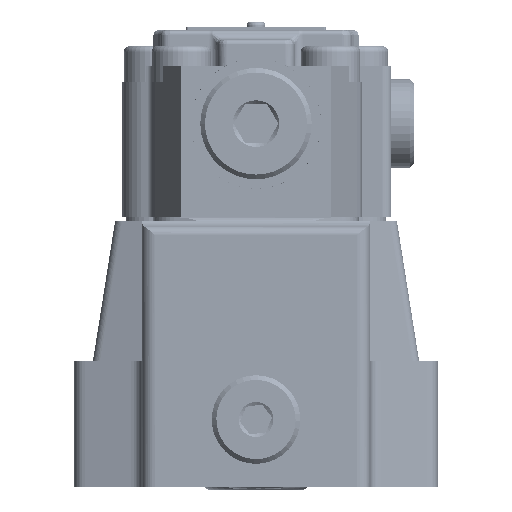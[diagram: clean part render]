
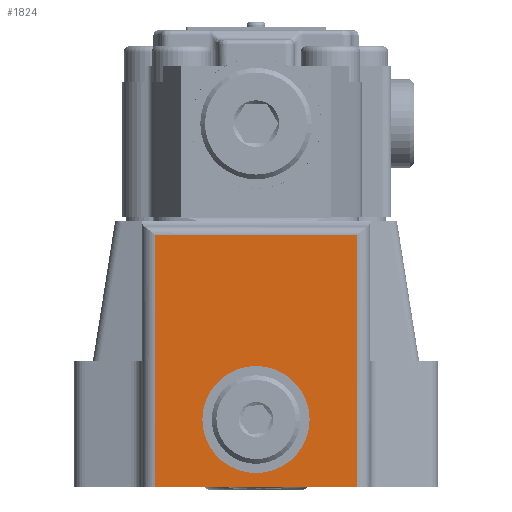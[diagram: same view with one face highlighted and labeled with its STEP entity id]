
A CAD part, left-side view. The second image highlights one B-rep face of the part: STEP entity #1824.
In plain terms, the highlighted planar face has unit normal (-1, 0, 0).
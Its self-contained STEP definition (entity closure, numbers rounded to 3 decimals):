
#1025=PLANE('',#10417);
#1387=FACE_BOUND('',#3114,.T.);
#1388=FACE_BOUND('',#3115,.T.);
#1824=ADVANCED_FACE('',(#1387,#1388),#1025,.F.);
#3114=EDGE_LOOP('',(#5137));
#3115=EDGE_LOOP('',(#5138,#5139,#5140,#5141));
#3831=CIRCLE('',#10416,11.5);
#5137=ORIENTED_EDGE('',*,*,#8227,.T.);
#5138=ORIENTED_EDGE('',*,*,#8181,.T.);
#5139=ORIENTED_EDGE('',*,*,#8112,.T.);
#5140=ORIENTED_EDGE('',*,*,#8187,.T.);
#5141=ORIENTED_EDGE('',*,*,#8228,.T.);
#7160=VERTEX_POINT('',#29062);
#7161=VERTEX_POINT('',#29063);
#7221=VERTEX_POINT('',#29344);
#7226=VERTEX_POINT('',#29400);
#7239=VERTEX_POINT('',#29478);
#8112=EDGE_CURVE('',#7160,#7161,#9208,.T.);
#8181=EDGE_CURVE('',#7221,#7160,#9235,.T.);
#8187=EDGE_CURVE('',#7161,#7226,#9236,.T.);
#8227=EDGE_CURVE('',#7239,#7239,#3831,.T.);
#8228=EDGE_CURVE('',#7226,#7221,#9266,.T.);
#9208=LINE('',#29061,#9728);
#9235=LINE('',#29343,#9755);
#9236=LINE('',#29401,#9756);
#9266=LINE('',#29479,#9786);
#9728=VECTOR('',#11730,1.);
#9755=VECTOR('',#11841,1.);
#9756=VECTOR('',#11846,1.);
#9786=VECTOR('',#11946,1.);
#10416=AXIS2_PLACEMENT_3D('',#29477,#11944,#11945);
#10417=AXIS2_PLACEMENT_3D('',#29480,#11947,#11948);
#11730=DIRECTION('',(0.,-1.,0.));
#11841=DIRECTION('',(0.,0.,-1.));
#11846=DIRECTION('',(0.,0.,1.));
#11944=DIRECTION('',(1.,0.,0.));
#11945=DIRECTION('',(0.,0.,-1.));
#11946=DIRECTION('',(0.,1.,0.));
#11947=DIRECTION('',(1.,0.,0.));
#11948=DIRECTION('',(0.,0.,1.));
#29061=CARTESIAN_POINT('',(540.888,66.994,0.));
#29062=CARTESIAN_POINT('',(540.888,71.902,0.));
#29063=CARTESIAN_POINT('',(540.888,28.413,0.));
#29343=CARTESIAN_POINT('',(540.888,71.902,0.));
#29344=CARTESIAN_POINT('',(540.888,71.902,54.));
#29400=CARTESIAN_POINT('',(540.888,28.413,54.));
#29401=CARTESIAN_POINT('',(540.888,28.413,0.));
#29477=CARTESIAN_POINT('',(540.888,50.157,14.5));
#29478=CARTESIAN_POINT('',(540.888,50.157,3.));
#29479=CARTESIAN_POINT('',(540.888,66.994,54.));
#29480=CARTESIAN_POINT('',(540.888,66.994,0.));
